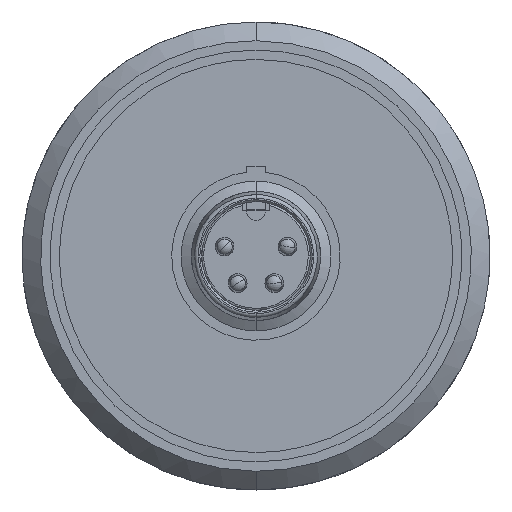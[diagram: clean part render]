
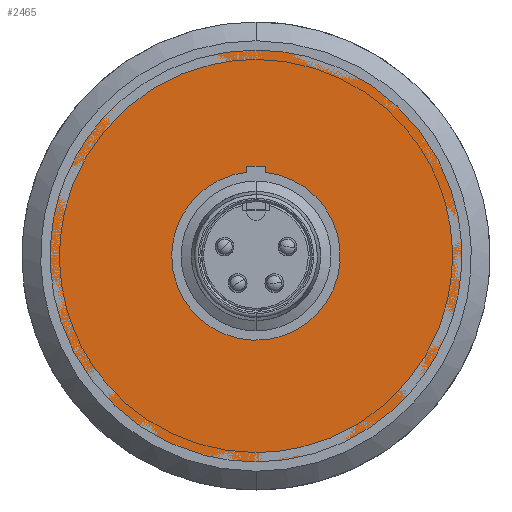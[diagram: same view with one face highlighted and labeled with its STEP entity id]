
A CAD part, front view. The second image highlights one B-rep face of the part: STEP entity #2465.
In plain terms, the highlighted planar face has unit normal (0, -1, 0).
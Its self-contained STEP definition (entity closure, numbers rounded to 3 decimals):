
#113 = EDGE_LOOP ( 'NONE', ( #5908, #5470 ) ) ;
#237 = CARTESIAN_POINT ( 'NONE',  ( 0.5, 0., 4.472 ) ) ;
#289 = DIRECTION ( 'NONE',  ( -1., 0., 0. ) ) ;
#783 = CARTESIAN_POINT ( 'NONE',  ( 0., 0., -11. ) ) ;
#862 = CARTESIAN_POINT ( 'NONE',  ( 11., 0., 5.5 ) ) ;
#878 = CARTESIAN_POINT ( 'NONE',  ( -2.894, 0., 4.204 ) ) ;
#910 = FACE_BOUND ( 'NONE', #5734, .T. ) ;
#1077 = CARTESIAN_POINT ( 'NONE',  ( -11., 0., 5.5 ) ) ;
#1131 = VERTEX_POINT ( 'NONE', #2953 ) ;
#1243 = CARTESIAN_POINT ( 'NONE',  ( 0., 0., 0. ) ) ;
#1598 = LINE ( 'NONE', #8931, #4329 ) ;
#1771 = CARTESIAN_POINT ( 'NONE',  ( 11., 0., -5.5 ) ) ;
#1929 = CARTESIAN_POINT ( 'NONE',  ( -11., 0., -5.5 ) ) ;
#2157 = VERTEX_POINT ( 'NONE', #2408 ) ;
#2211 = DIRECTION ( 'NONE',  ( -1., 0., 0. ) ) ;
#2246 = DIRECTION ( 'NONE',  ( 0., 0., -1. ) ) ;
#2408 = CARTESIAN_POINT ( 'NONE',  ( 0.5, 0., 4.8 ) ) ;
#2465 = ADVANCED_FACE ( 'NONE', ( #910, #3639 ), #7546, .T. ) ;
#2786 = CARTESIAN_POINT ( 'NONE',  ( 0.5, 0., 4.8 ) ) ;
#2793 = DIRECTION ( 'NONE',  ( 0., 0., -1. ) ) ;
#2834 = CARTESIAN_POINT ( 'NONE',  ( 0., 0., 11. ) ) ;
#2953 = CARTESIAN_POINT ( 'NONE',  ( -4.5, 0., 0. ) ) ;
#2958 = CIRCLE ( 'NONE', #7690, 4.5 ) ;
#3168 = VERTEX_POINT ( 'NONE', #237 ) ;
#3507 = CARTESIAN_POINT ( 'NONE',  ( 0., 0., 11. ) ) ;
#3566 = ORIENTED_EDGE ( 'NONE', *, *, #6563, .F. ) ;
#3579 = DIRECTION ( 'NONE',  ( 0., -1., 0. ) ) ;
#3639 = FACE_OUTER_BOUND ( 'NONE', #113, .T. ) ;
#3694 = AXIS2_PLACEMENT_3D ( 'NONE', #7360, #3579, #2793 ) ;
#3771 = CARTESIAN_POINT ( 'NONE',  ( 0., 0., -11. ) ) ;
#3857 =( BOUNDED_CURVE ( )  B_SPLINE_CURVE ( 3, ( #2834, #5750, #1077, #10371, #1929, #8515, #9506 ),
 .UNSPECIFIED., .F., .T. ) 
 B_SPLINE_CURVE_WITH_KNOTS ( ( 4, 3, 4 ),
 ( 0.75, 1., 1.25 ),
 .UNSPECIFIED. ) 
 CURVE ( )  GEOMETRIC_REPRESENTATION_ITEM ( )  RATIONAL_B_SPLINE_CURVE ( ( 0.5, 0.5, 0.667, 1., 0.667, 0.5, 0.5 ) ) 
 REPRESENTATION_ITEM ( '' )  );
#4329 = VECTOR ( 'NONE', #4414, 1000. ) ;
#4414 = DIRECTION ( 'NONE',  ( 0., 0., 1. ) ) ;
#5470 = ORIENTED_EDGE ( 'NONE', *, *, #6464, .T. ) ;
#5557 = CARTESIAN_POINT ( 'NONE',  ( -0.5, 0., 4.8 ) ) ;
#5586 = ORIENTED_EDGE ( 'NONE', *, *, #11517, .F. ) ;
#5734 = EDGE_LOOP ( 'NONE', ( #6244, #9589, #5586, #3566, #8375 ) ) ;
#5750 = CARTESIAN_POINT ( 'NONE',  ( -7.333, 0., 11. ) ) ;
#5908 = ORIENTED_EDGE ( 'NONE', *, *, #10257, .T. ) ;
#6244 = ORIENTED_EDGE ( 'NONE', *, *, #9145, .F. ) ;
#6464 = EDGE_CURVE ( 'NONE', #11411, #7747, #3857, .T. ) ;
#6563 = EDGE_CURVE ( 'NONE', #3168, #2157, #1598, .T. ) ;
#6749 = CARTESIAN_POINT ( 'NONE',  ( -4.5, 0., 2.409 ) ) ;
#6834 = EDGE_CURVE ( 'NONE', #11810, #10886, #8666, .T. ) ;
#7265 = CARTESIAN_POINT ( 'NONE',  ( -0.5, 0., 4.472 ) ) ;
#7360 = CARTESIAN_POINT ( 'NONE',  ( 0., 0., 0. ) ) ;
#7512 = VECTOR ( 'NONE', #289, 1000. ) ;
#7546 = PLANE ( 'NONE',  #3694 ) ;
#7690 = AXIS2_PLACEMENT_3D ( 'NONE', #1243, #9850, #2211 ) ;
#7747 = VERTEX_POINT ( 'NONE', #783 ) ;
#8375 = ORIENTED_EDGE ( 'NONE', *, *, #11956, .F. ) ;
#8515 = CARTESIAN_POINT ( 'NONE',  ( -7.333, 0., -11. ) ) ;
#8527 =( BOUNDED_CURVE ( )  B_SPLINE_CURVE ( 3, ( #7265, #878, #6749, #9179 ),
 .UNSPECIFIED., .F., .T. ) 
 B_SPLINE_CURVE_WITH_KNOTS ( ( 4, 4 ),
 ( 0., 1. ),
 .UNSPECIFIED. ) 
 CURVE ( )  GEOMETRIC_REPRESENTATION_ITEM ( )  RATIONAL_B_SPLINE_CURVE ( ( 1., 0.83, 0.83, 1. ) ) 
 REPRESENTATION_ITEM ( '' )  );
#8666 = LINE ( 'NONE', #11491, #8672 ) ;
#8672 = VECTOR ( 'NONE', #2246, 1000. ) ;
#8931 = CARTESIAN_POINT ( 'NONE',  ( 0.5, 0., 4.472 ) ) ;
#9145 = EDGE_CURVE ( 'NONE', #10886, #1131, #8527, .T. ) ;
#9179 = CARTESIAN_POINT ( 'NONE',  ( -4.5, 0., 0. ) ) ;
#9284 = CARTESIAN_POINT ( 'NONE',  ( 11., 0., 0. ) ) ;
#9447 = LINE ( 'NONE', #2786, #7512 ) ;
#9506 = CARTESIAN_POINT ( 'NONE',  ( 0., 0., -11. ) ) ;
#9589 = ORIENTED_EDGE ( 'NONE', *, *, #6834, .F. ) ;
#9850 = DIRECTION ( 'NONE',  ( 0., -1., 0. ) ) ;
#10213 = CARTESIAN_POINT ( 'NONE',  ( 7.333, 0., -11. ) ) ;
#10257 = EDGE_CURVE ( 'NONE', #7747, #11411, #11502, .T. ) ;
#10278 = CARTESIAN_POINT ( 'NONE',  ( 7.333, 0., 11. ) ) ;
#10350 = CARTESIAN_POINT ( 'NONE',  ( -0.5, 0., 4.472 ) ) ;
#10371 = CARTESIAN_POINT ( 'NONE',  ( -11., 0., 0. ) ) ;
#10886 = VERTEX_POINT ( 'NONE', #10350 ) ;
#11309 = CARTESIAN_POINT ( 'NONE',  ( 0., 0., 11. ) ) ;
#11411 = VERTEX_POINT ( 'NONE', #3507 ) ;
#11491 = CARTESIAN_POINT ( 'NONE',  ( -0.5, 0., 4.8 ) ) ;
#11502 =( BOUNDED_CURVE ( )  B_SPLINE_CURVE ( 3, ( #3771, #10213, #1771, #9284, #862, #10278, #11309 ),
 .UNSPECIFIED., .F., .T. ) 
 B_SPLINE_CURVE_WITH_KNOTS ( ( 4, 3, 4 ),
 ( 0.25, 0.5, 0.75 ),
 .UNSPECIFIED. ) 
 CURVE ( )  GEOMETRIC_REPRESENTATION_ITEM ( )  RATIONAL_B_SPLINE_CURVE ( ( 0.5, 0.5, 0.667, 1., 0.667, 0.5, 0.5 ) ) 
 REPRESENTATION_ITEM ( '' )  );
#11517 = EDGE_CURVE ( 'NONE', #2157, #11810, #9447, .T. ) ;
#11810 = VERTEX_POINT ( 'NONE', #5557 ) ;
#11956 = EDGE_CURVE ( 'NONE', #1131, #3168, #2958, .T. ) ;
